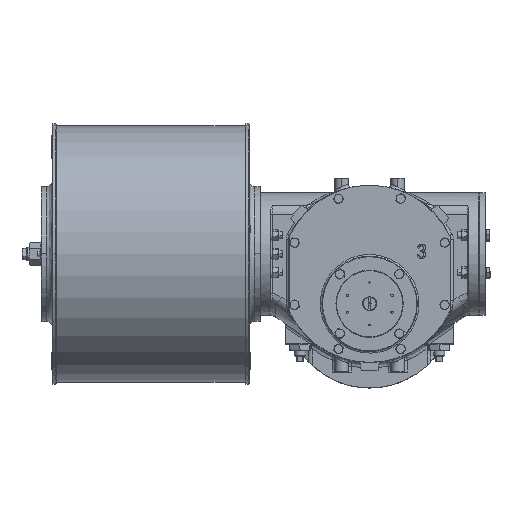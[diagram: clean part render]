
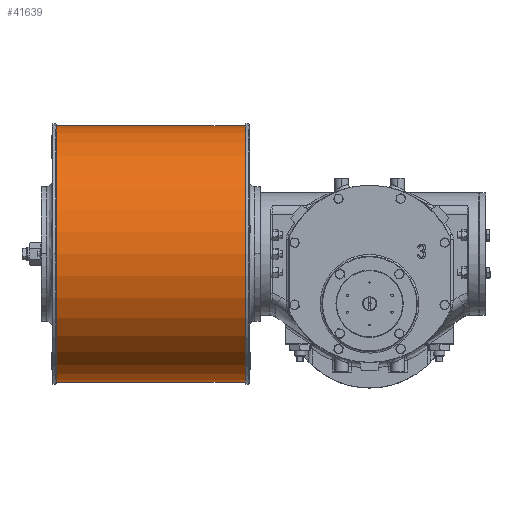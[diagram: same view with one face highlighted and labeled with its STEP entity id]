
A CAD part, top view. The second image highlights one B-rep face of the part: STEP entity #41639.
In plain terms, the highlighted cylindrical face has radius 228.6 mm (diameter 457.2 mm), a partial arc.
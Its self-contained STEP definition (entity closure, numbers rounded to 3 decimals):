
#504 = EDGE_LOOP ( 'NONE', ( #55685, #66783, #36356, #38918 ) ) ;
#2433 = VECTOR ( 'NONE', #41186, 1000. ) ;
#2737 = AXIS2_PLACEMENT_3D ( 'NONE', #26573, #27263, #42546 ) ;
#8181 = CIRCLE ( 'NONE', #2737, 228.6 ) ;
#8566 = FACE_OUTER_BOUND ( 'NONE', #504, .T. ) ;
#8977 = CIRCLE ( 'NONE', #42573, 228.6 ) ;
#9636 = VERTEX_POINT ( 'NONE', #49777 ) ;
#19967 = CARTESIAN_POINT ( 'NONE',  ( -559., -193.1, 74.5 ) ) ;
#22274 = EDGE_CURVE ( 'NONE', #35957, #9636, #33819, .T. ) ;
#25231 = LINE ( 'NONE', #30012, #2433 ) ;
#25511 = EDGE_CURVE ( 'NONE', #47608, #35957, #8977, .T. ) ;
#26573 = CARTESIAN_POINT ( 'NONE',  ( -222., 35.5, 74.5 ) ) ;
#27263 = DIRECTION ( 'NONE',  ( -1., 0., 0. ) ) ;
#28078 = DIRECTION ( 'NONE',  ( 0., 1., 0. ) ) ;
#28140 = EDGE_CURVE ( 'NONE', #9636, #33488, #8181, .T. ) ;
#28722 = CARTESIAN_POINT ( 'NONE',  ( -559., -193.1, 74.5 ) ) ;
#29550 = VECTOR ( 'NONE', #43672, 1000. ) ;
#30012 = CARTESIAN_POINT ( 'NONE',  ( -559., 264.1, 74.5 ) ) ;
#33488 = VERTEX_POINT ( 'NONE', #53681 ) ;
#33819 = LINE ( 'NONE', #28722, #29550 ) ;
#35957 = VERTEX_POINT ( 'NONE', #19967 ) ;
#36356 = ORIENTED_EDGE ( 'NONE', *, *, #28140, .T. ) ;
#37235 = CARTESIAN_POINT ( 'NONE',  ( -559., 35.5, 74.5 ) ) ;
#38918 = ORIENTED_EDGE ( 'NONE', *, *, #51730, .F. ) ;
#41186 = DIRECTION ( 'NONE',  ( 1., 0., 0. ) ) ;
#41454 = DIRECTION ( 'NONE',  ( 1., 0., 0. ) ) ;
#41639 = ADVANCED_FACE ( 'NONE', ( #8566 ), #59604, .T. ) ;
#42546 = DIRECTION ( 'NONE',  ( 0., 1., 0. ) ) ;
#42573 = AXIS2_PLACEMENT_3D ( 'NONE', #37235, #54269, #28078 ) ;
#43672 = DIRECTION ( 'NONE',  ( 1., 0., 0. ) ) ;
#43982 = CARTESIAN_POINT ( 'NONE',  ( -559., 264.1, 74.5 ) ) ;
#47608 = VERTEX_POINT ( 'NONE', #43982 ) ;
#49777 = CARTESIAN_POINT ( 'NONE',  ( -222., -193.1, 74.5 ) ) ;
#51730 = EDGE_CURVE ( 'NONE', #47608, #33488, #25231, .T. ) ;
#53681 = CARTESIAN_POINT ( 'NONE',  ( -222., 264.1, 74.5 ) ) ;
#54269 = DIRECTION ( 'NONE',  ( 1., 0., 0. ) ) ;
#55685 = ORIENTED_EDGE ( 'NONE', *, *, #25511, .T. ) ;
#55803 = DIRECTION ( 'NONE',  ( 0., 1., 0. ) ) ;
#59604 = CYLINDRICAL_SURFACE ( 'NONE', #65797, 228.6 ) ;
#61231 = CARTESIAN_POINT ( 'NONE',  ( -559., 35.5, 74.5 ) ) ;
#65797 = AXIS2_PLACEMENT_3D ( 'NONE', #61231, #41454, #55803 ) ;
#66783 = ORIENTED_EDGE ( 'NONE', *, *, #22274, .T. ) ;
